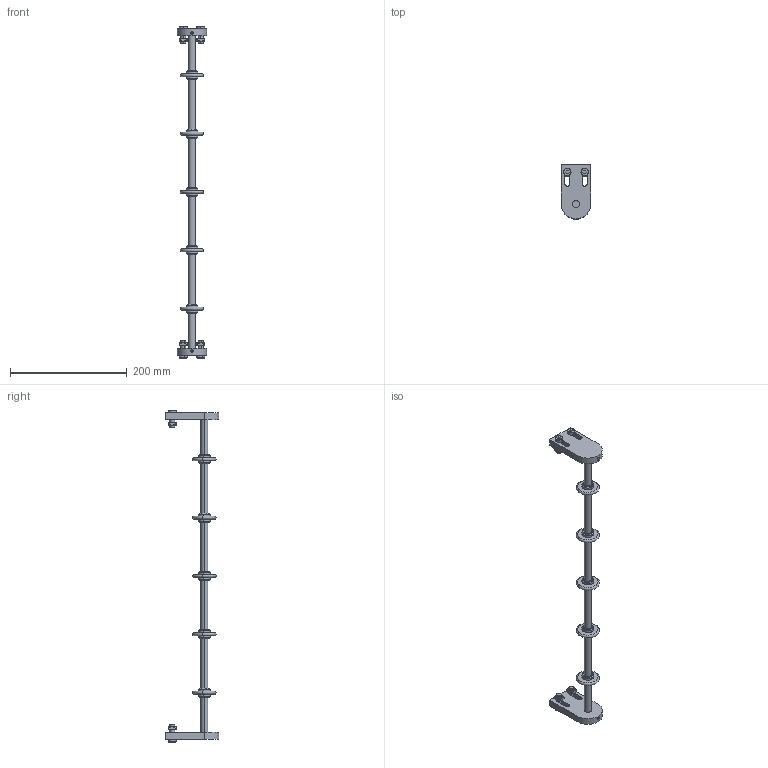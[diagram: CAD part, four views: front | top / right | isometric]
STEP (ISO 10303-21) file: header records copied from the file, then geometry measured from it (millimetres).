
FILE_DESCRIPTION (( 'STEP AP203' ), '1' );
FILE_NAME ('084.095.KSW.500.STEP', '2019-07-30T08:43:02', ( '' ), ( '' ), 'SwSTEP 2.0', 'SolidWorks 2018', '' );
FILE_SCHEMA (( 'CONFIG_CONTROL_DESIGN' ));
Length unit declared in the file: millimetre
Products named in the file (7): 084.302.000 DADI ALUSIC 13x13-1_084.302.004; Parte359^084.095.KSW.500; 084.095.KSW.500; GRANI A PUNTA PIATTA UNI 5923_M6x16 UNI 5923; 084.301.000 VITI ALUSIC_084.301.004; 084.802.030; 084.802.041
Assembly tree (18 placements, depth 2):
  084.095.KSW.500
    Parte359^084.095.KSW.500
    084.802.041  x5
    084.802.030  x2
    GRANI A PUNTA PIATTA UNI 5923_M6x16 UNI 5923  x2
    084.301.000 VITI ALUSIC_084.301.004  x4
    084.302.000 DADI ALUSIC 13x13-1_084.302.004  x4
Bounding box: 50 x 92.5 x 569 mm (x, y, z)
Volume: 200098.2 mm3; surface area: 74172.7 mm2
Topology: 18 solids, 18 shells, 320 faces, 734 edges, 472 vertices
Faces by surface type: plane 124, cylinder 94, cone 44, torus 42, bspline 16
Entity records: 4289 total; most frequent: CARTESIAN_POINT 995, DIRECTION 492, ORIENTED_EDGE 440, EDGE_CURVE 220, AXIS2_PLACEMENT_3D 193, VERTEX_POINT 142, EDGE_LOOP 112, VECTOR 106
